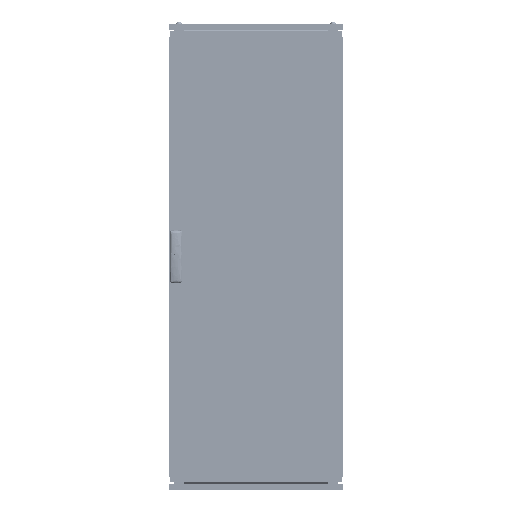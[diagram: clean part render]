
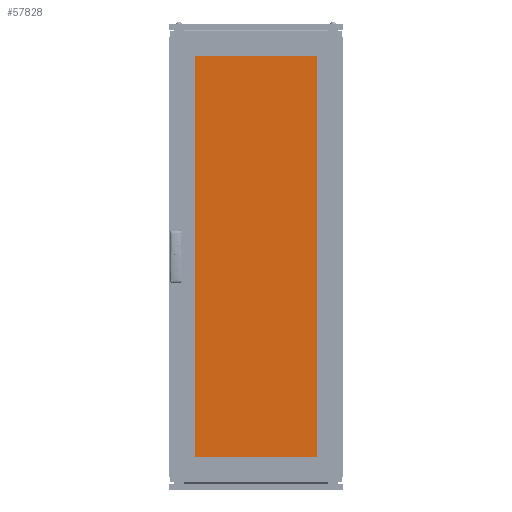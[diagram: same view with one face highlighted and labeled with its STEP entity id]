
A CAD part, top view. The second image highlights one B-rep face of the part: STEP entity #57828.
In plain terms, the highlighted planar face has unit normal (0, 0, 1).
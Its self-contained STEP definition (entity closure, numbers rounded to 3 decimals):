
#10238 = VECTOR ( 'NONE', #88289, 1000. ) ;
#12416 = EDGE_CURVE ( 'NONE', #82260, #108332, #64179, .T. ) ;
#26050 = CARTESIAN_POINT ( 'NONE',  ( 230., -710., 5. ) ) ;
#27370 = CARTESIAN_POINT ( 'NONE',  ( -230., -710., 5. ) ) ;
#35241 = CARTESIAN_POINT ( 'NONE',  ( 0., 0., 5. ) ) ;
#35924 = VECTOR ( 'NONE', #65190, 1000. ) ;
#42033 = DIRECTION ( 'NONE',  ( 0., 1., 0. ) ) ;
#44419 = EDGE_LOOP ( 'NONE', ( #175021, #106647, #166731, #81106 ) ) ;
#47249 = CARTESIAN_POINT ( 'NONE',  ( -230., -710., 5. ) ) ;
#51937 = CARTESIAN_POINT ( 'NONE',  ( -230., -710., 5. ) ) ;
#57275 = LINE ( 'NONE', #27370, #10238 ) ;
#57828 = ADVANCED_FACE ( 'NONE', ( #111046 ), #65156, .F. ) ;
#64179 = LINE ( 'NONE', #47249, #35924 ) ;
#65156 = PLANE ( 'NONE',  #133881 ) ;
#65190 = DIRECTION ( 'NONE',  ( 0., -1., 0. ) ) ;
#78265 = LINE ( 'NONE', #168137, #130189 ) ;
#80176 = DIRECTION ( 'NONE',  ( 0., 0., -1. ) ) ;
#81106 = ORIENTED_EDGE ( 'NONE', *, *, #101667, .T. ) ;
#81628 = CARTESIAN_POINT ( 'NONE',  ( -230., 710., 5. ) ) ;
#82260 = VERTEX_POINT ( 'NONE', #81628 ) ;
#87945 = EDGE_CURVE ( 'NONE', #170025, #82260, #78265, .T. ) ;
#88289 = DIRECTION ( 'NONE',  ( 1., 0., 0. ) ) ;
#101667 = EDGE_CURVE ( 'NONE', #108332, #104540, #57275, .T. ) ;
#104540 = VERTEX_POINT ( 'NONE', #154708 ) ;
#106647 = ORIENTED_EDGE ( 'NONE', *, *, #87945, .T. ) ;
#108332 = VERTEX_POINT ( 'NONE', #51937 ) ;
#111046 = FACE_OUTER_BOUND ( 'NONE', #44419, .T. ) ;
#130189 = VECTOR ( 'NONE', #139096, 1000. ) ;
#133881 = AXIS2_PLACEMENT_3D ( 'NONE', #35241, #80176, #195323 ) ;
#135397 = CARTESIAN_POINT ( 'NONE',  ( 230., 710., 5. ) ) ;
#139096 = DIRECTION ( 'NONE',  ( -1., 0., 0. ) ) ;
#153183 = VECTOR ( 'NONE', #42033, 1000. ) ;
#154708 = CARTESIAN_POINT ( 'NONE',  ( 230., -710., 5. ) ) ;
#166731 = ORIENTED_EDGE ( 'NONE', *, *, #12416, .T. ) ;
#168137 = CARTESIAN_POINT ( 'NONE',  ( -230., 710., 5. ) ) ;
#170025 = VERTEX_POINT ( 'NONE', #135397 ) ;
#175021 = ORIENTED_EDGE ( 'NONE', *, *, #181028, .T. ) ;
#178852 = LINE ( 'NONE', #26050, #153183 ) ;
#181028 = EDGE_CURVE ( 'NONE', #104540, #170025, #178852, .T. ) ;
#195323 = DIRECTION ( 'NONE',  ( -1., 0., 0. ) ) ;
